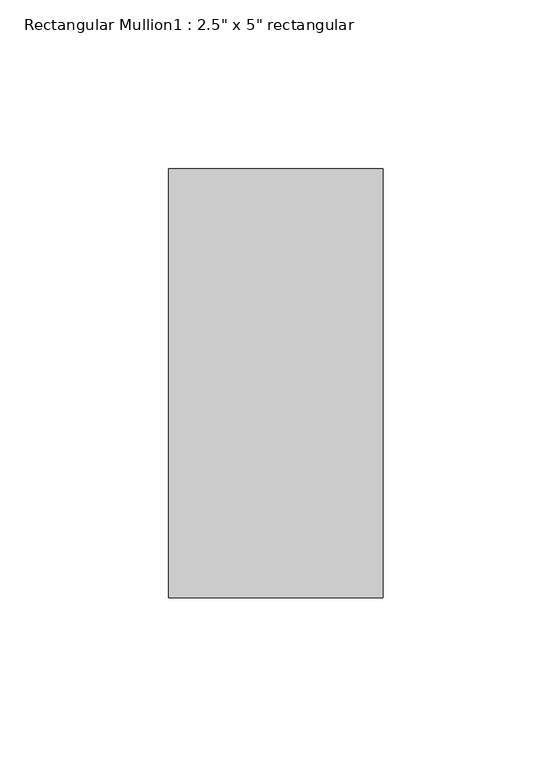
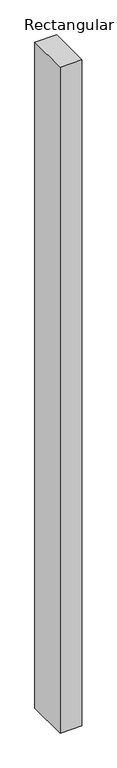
"""IFC4 building model written with IfcOpenShell, lengths in millimetres: member geometry."""

from ifc_helpers import new_model, si_unit, frame, origin, place, context, project, spatial, polyline, outline, extrude, source, transform, mapped, element, save


def member_0efe1817(model_context):
    return source(origin(), model_context, "Body", "SweptSolid", [
        extrude(outline(polyline([(31.75, 63.5), (31.75, -63.5), (-31.75, -63.5), (-31.75, 63.5), (31.75, 63.5)])), frame((0.0, 0.0, -2053.1666667), z_axis=(0.0, 0.0, 1.0), x_axis=(1.0, 0.0, 0.0)), (0.0, 0.0, 1.0), 2053.1666667),
    ])


if __name__ == "__main__":
    model = new_model("IFC4")
    model_context = context("Model", 3, world=origin())
    ifc_project = project(units=[si_unit("LENGTHUNIT", "METRE", prefix="MILLI")], contexts=[model_context])
    site = spatial("IfcSite", under=ifc_project)
    building = spatial("IfcBuilding", under=site)
    placement = place(None, origin())
    member_shape = member_0efe1817(model_context)
    element("IfcMember", 1, ObjectType="Rectangular Mullion1 : 2.5\" x 5\" rectangular", at=placement, inside=building, context=model_context, shape_type="MappedRepresentation", body=[
        mapped(member_shape, transform((0.0, 0.0, 0.0), x_axis=(1.0, 0.0, 0.0), y_axis=(0.0, 1.0, 0.0), z_axis=(0.0, 0.0, 1.0))),
    ])
    save(model, "model.ifc")
